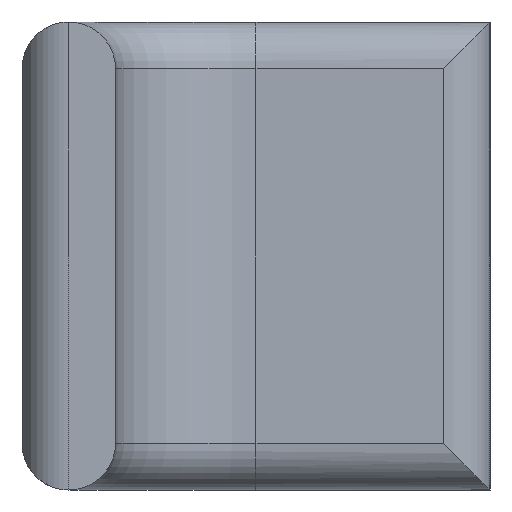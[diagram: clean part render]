
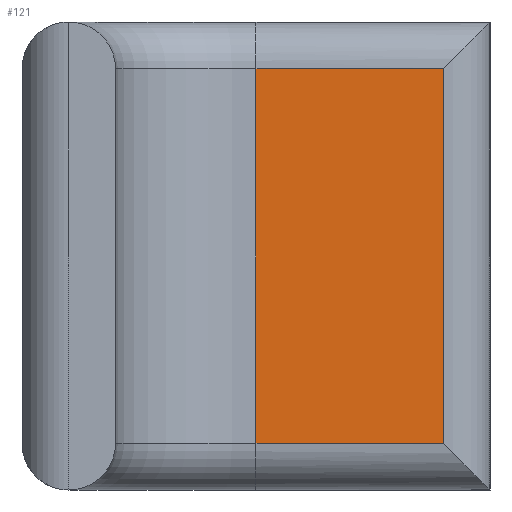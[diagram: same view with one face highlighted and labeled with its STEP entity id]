
A CAD part, left-side view. The second image highlights one B-rep face of the part: STEP entity #121.
In plain terms, the highlighted planar face has unit normal (-1, 0, 0).
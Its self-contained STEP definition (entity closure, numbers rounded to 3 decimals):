
#121=ADVANCED_FACE('',(#506),#508,.T.);
#506=FACE_BOUND('',#507,.T.);
#507=EDGE_LOOP('',(#802,#803,#804,#805));
#508=PLANE('',#509);
#509=AXIS2_PLACEMENT_3D('',#510,#511,#512);
#510=CARTESIAN_POINT('',(10.,8.,0.));
#511=DIRECTION('',(-1.,0.,0.));
#512=DIRECTION('',(0.,-1.,0.));
#802=ORIENTED_EDGE('',*,*,#998,.T.);
#803=ORIENTED_EDGE('',*,*,#999,.T.);
#804=ORIENTED_EDGE('',*,*,#1000,.F.);
#805=ORIENTED_EDGE('',*,*,#1001,.F.);
#998=EDGE_CURVE('',#1135,#1136,#1137,.T.);
#999=EDGE_CURVE('',#1136,#1138,#1139,.T.);
#1000=EDGE_CURVE('',#1140,#1138,#1141,.T.);
#1001=EDGE_CURVE('',#1135,#1140,#1142,.T.);
#1135=VERTEX_POINT('',#1526);
#1136=VERTEX_POINT('',#1527);
#1137=LINE('',#1528,#1529);
#1138=VERTEX_POINT('',#1531);
#1139=LINE('',#1532,#1533);
#1140=VERTEX_POINT('',#1535);
#1141=LINE('',#1536,#1537);
#1142=LINE('',#1539,#1540);
#1526=CARTESIAN_POINT('',(10.,5.,1.));
#1527=CARTESIAN_POINT('',(10.,1.,1.));
#1528=CARTESIAN_POINT('',(10.,5.,1.));
#1529=VECTOR('',#1530,1.);
#1530=DIRECTION('',(0.,-1.,0.));
#1531=CARTESIAN_POINT('',(10.,1.,9.));
#1532=CARTESIAN_POINT('',(10.,1.,1.));
#1533=VECTOR('',#1534,1.);
#1534=DIRECTION('',(0.,0.,1.));
#1535=CARTESIAN_POINT('',(10.,5.,9.));
#1536=CARTESIAN_POINT('',(10.,5.,9.));
#1537=VECTOR('',#1538,1.);
#1538=DIRECTION('',(0.,-1.,0.));
#1539=CARTESIAN_POINT('',(10.,5.,1.));
#1540=VECTOR('',#1541,1.);
#1541=DIRECTION('',(0.,0.,1.));
